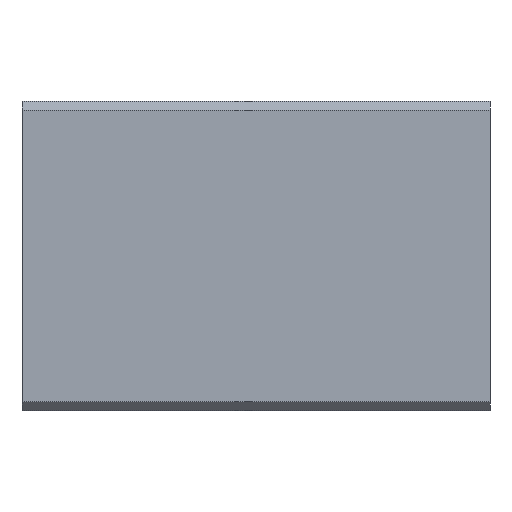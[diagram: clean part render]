
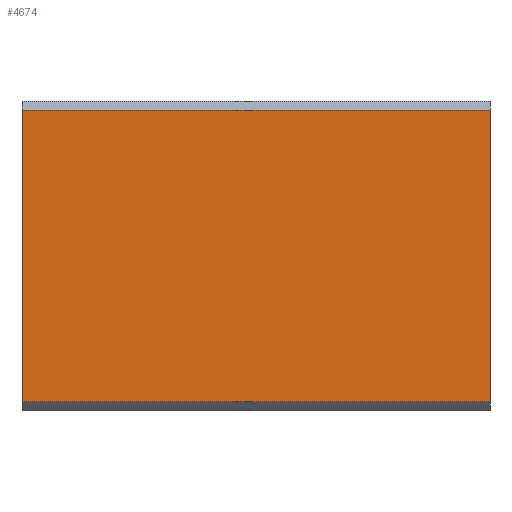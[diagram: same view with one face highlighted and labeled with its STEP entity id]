
A CAD part, front view. The second image highlights one B-rep face of the part: STEP entity #4674.
In plain terms, the highlighted planar face has unit normal (0, -1, 0).
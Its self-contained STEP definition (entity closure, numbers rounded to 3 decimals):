
#91 = VERTEX_POINT ( 'NONE', #7072 ) ;
#248 = FACE_OUTER_BOUND ( 'NONE', #4612, .T. ) ;
#425 = DIRECTION ( 'NONE',  ( 0., 1., 0. ) ) ;
#1250 = EDGE_CURVE ( 'NONE', #12131, #8352, #1775, .T. ) ;
#1775 = LINE ( 'NONE', #8727, #5713 ) ;
#2177 = ORIENTED_EDGE ( 'NONE', *, *, #1250, .T. ) ;
#2503 = LINE ( 'NONE', #8328, #3248 ) ;
#3152 = EDGE_CURVE ( 'NONE', #7862, #8352, #2503, .T. ) ;
#3215 = CARTESIAN_POINT ( 'NONE',  ( 53., -17.5, -16.5 ) ) ;
#3248 = VECTOR ( 'NONE', #7665, 1000. ) ;
#4612 = EDGE_LOOP ( 'NONE', ( #9330, #2177, #10483, #5594 ) ) ;
#4674 = ADVANCED_FACE ( 'NONE', ( #248 ), #11789, .F. ) ;
#5181 = CARTESIAN_POINT ( 'NONE',  ( 53., -17.5, 16.5 ) ) ;
#5594 = ORIENTED_EDGE ( 'NONE', *, *, #7321, .T. ) ;
#5713 = VECTOR ( 'NONE', #12683, 1000. ) ;
#5854 = CARTESIAN_POINT ( 'NONE',  ( 0., -17.5, -16.5 ) ) ;
#6806 = LINE ( 'NONE', #11745, #10286 ) ;
#7072 = CARTESIAN_POINT ( 'NONE',  ( 0., -17.5, 16.5 ) ) ;
#7232 = DIRECTION ( 'NONE',  ( 0., 0., 1. ) ) ;
#7321 = EDGE_CURVE ( 'NONE', #7862, #91, #11117, .T. ) ;
#7387 = EDGE_CURVE ( 'NONE', #91, #12131, #6806, .T. ) ;
#7665 = DIRECTION ( 'NONE',  ( 0., 0., -1. ) ) ;
#7862 = VERTEX_POINT ( 'NONE', #12080 ) ;
#8328 = CARTESIAN_POINT ( 'NONE',  ( 53., -17.5, 17.5 ) ) ;
#8352 = VERTEX_POINT ( 'NONE', #3215 ) ;
#8727 = CARTESIAN_POINT ( 'NONE',  ( 53., -17.5, -16.5 ) ) ;
#8973 = CARTESIAN_POINT ( 'NONE',  ( 53., -17.5, 17.5 ) ) ;
#9330 = ORIENTED_EDGE ( 'NONE', *, *, #7387, .T. ) ;
#9930 = DIRECTION ( 'NONE',  ( 0., 0., -1. ) ) ;
#10021 = AXIS2_PLACEMENT_3D ( 'NONE', #8973, #425, #7232 ) ;
#10202 = DIRECTION ( 'NONE',  ( -1., 0., 0. ) ) ;
#10286 = VECTOR ( 'NONE', #9930, 1000. ) ;
#10483 = ORIENTED_EDGE ( 'NONE', *, *, #3152, .F. ) ;
#11117 = LINE ( 'NONE', #5181, #11389 ) ;
#11389 = VECTOR ( 'NONE', #10202, 1000. ) ;
#11745 = CARTESIAN_POINT ( 'NONE',  ( 0., -17.5, 17.5 ) ) ;
#11789 = PLANE ( 'NONE',  #10021 ) ;
#12080 = CARTESIAN_POINT ( 'NONE',  ( 53., -17.5, 16.5 ) ) ;
#12131 = VERTEX_POINT ( 'NONE', #5854 ) ;
#12683 = DIRECTION ( 'NONE',  ( 1., 0., 0. ) ) ;
